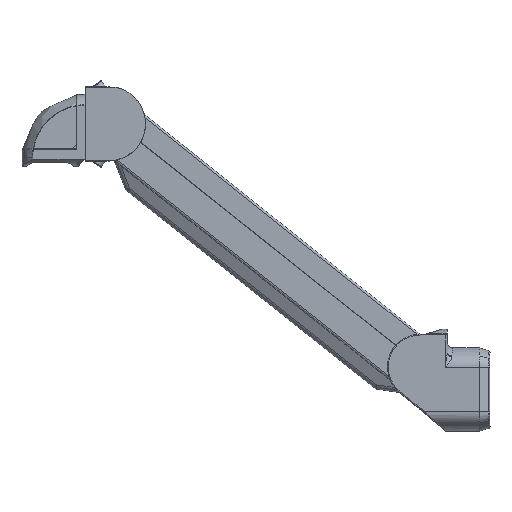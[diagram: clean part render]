
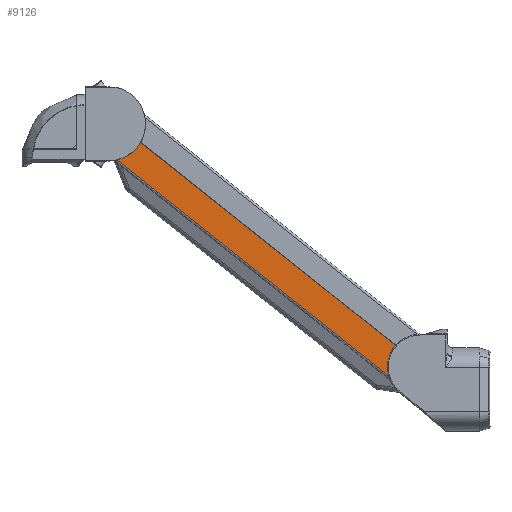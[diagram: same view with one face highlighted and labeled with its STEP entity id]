
A CAD part, top view. The second image highlights one B-rep face of the part: STEP entity #9126.
In plain terms, the highlighted planar face has unit normal (0, 0, 1).
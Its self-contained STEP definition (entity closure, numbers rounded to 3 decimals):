
#8456=CARTESIAN_POINT('',(-612.433,425.66,48.327));
#8457=DIRECTION('',(0.,0.,-1.));
#8458=DIRECTION('',(0.783,-0.623,0.));
#8459=AXIS2_PLACEMENT_3D('',#8456,#8457,#8458);
#8461=CARTESIAN_POINT('',(-612.433,425.66,48.327));
#8462=DIRECTION('',(0.,0.,-1.));
#8463=DIRECTION('',(0.623,0.783,0.));
#8464=AXIS2_PLACEMENT_3D('',#8461,#8462,#8463);
#8466=DIRECTION('',(-0.783,0.623,0.));
#8467=VECTOR('',#8466,730.);
#8468=CARTESIAN_POINT('',(-11.254,8.781,48.327));
#8469=LINE('',#8468,#8467);
#8470=DIRECTION('',(0.506,0.863,0.));
#8471=VECTOR('',#8470,35.355);
#8472=CARTESIAN_POINT('',(-29.129,-21.723,
48.327));
#8473=LINE('',#8472,#8471);
#8474=DIRECTION('',(0.623,0.783,0.));
#8475=VECTOR('',#8474,6.);
#8476=CARTESIAN_POINT('',(-32.864,-26.419,
48.327));
#8477=LINE('',#8476,#8475);
#8478=DIRECTION('',(0.623,0.783,0.));
#8479=VECTOR('',#8478,13.);
#8480=CARTESIAN_POINT('',(-40.957,-36.592,
48.327));
#8481=LINE('',#8480,#8479);
#8494=DIRECTION('',(-0.783,0.623,0.));
#8495=VECTOR('',#8494,727.);
#8496=CARTESIAN_POINT('',(-40.957,-36.592,
48.327));
#8497=LINE('',#8496,#8495);
#8840=DIRECTION('',(0.623,0.783,0.));
#8841=VECTOR('',#8840,38.);
#8842=CARTESIAN_POINT('',(-606.207,433.486,48.327));
#8843=LINE('',#8842,#8841);
#8964=CARTESIAN_POINT('',(-40.957,-36.592,
48.327));
#8965=CARTESIAN_POINT('',(-609.907,415.984,48.327));
#8966=VERTEX_POINT('',#8964);
#8967=VERTEX_POINT('',#8965);
#9000=CARTESIAN_POINT('',(-32.864,-26.419,
48.327));
#9001=VERTEX_POINT('',#9000);
#9002=CARTESIAN_POINT('',(-11.254,8.781,48.327));
#9003=CARTESIAN_POINT('',(-582.551,463.224,48.327));
#9004=VERTEX_POINT('',#9002);
#9005=VERTEX_POINT('',#9003);
#9028=CARTESIAN_POINT('',(-604.607,419.434,48.327));
#9030=VERTEX_POINT('',#9028);
#9056=CARTESIAN_POINT('',(-29.129,-21.723,
48.327));
#9057=VERTEX_POINT('',#9056);
#9064=CARTESIAN_POINT('',(-606.207,433.486,48.327));
#9065=VERTEX_POINT('',#9064);
#9103=CARTESIAN_POINT('',(-582.551,463.224,48.327));
#9104=DIRECTION('',(0.,0.,1.));
#9105=DIRECTION('',(-0.623,-0.783,0.));
#9106=AXIS2_PLACEMENT_3D('',#9103,#9104,#9105);
#9107=PLANE('',#9106);
#9109=ORIENTED_EDGE('',*,*,#9108,.T.);
#9111=ORIENTED_EDGE('',*,*,#9110,.F.);
#9113=ORIENTED_EDGE('',*,*,#9112,.F.);
#9115=ORIENTED_EDGE('',*,*,#9114,.T.);
#9117=ORIENTED_EDGE('',*,*,#9116,.F.);
#9119=ORIENTED_EDGE('',*,*,#9118,.F.);
#9121=ORIENTED_EDGE('',*,*,#9120,.F.);
#9123=ORIENTED_EDGE('',*,*,#9122,.F.);
#9124=EDGE_LOOP('',(#9109,#9111,#9113,#9115,#9117,#9119,#9121,#9123));
#9125=FACE_OUTER_BOUND('',#9124,.F.);
#8460=CIRCLE('',#8459,10.);
#8465=CIRCLE('',#8464,10.);
#9108=EDGE_CURVE('',#8966,#8967,#8497,.T.);
#9110=EDGE_CURVE('',#9030,#8967,#8460,.T.);
#9112=EDGE_CURVE('',#9065,#9030,#8465,.T.);
#9114=EDGE_CURVE('',#9065,#9005,#8843,.T.);
#9116=EDGE_CURVE('',#9004,#9005,#8469,.T.);
#9118=EDGE_CURVE('',#9057,#9004,#8473,.T.);
#9120=EDGE_CURVE('',#9001,#9057,#8477,.T.);
#9122=EDGE_CURVE('',#8966,#9001,#8481,.T.);
#9126=ADVANCED_FACE('',(#9125),#9107,.T.);
